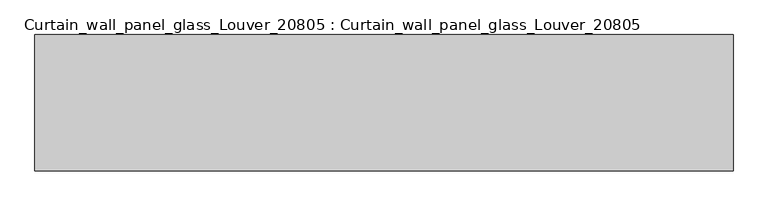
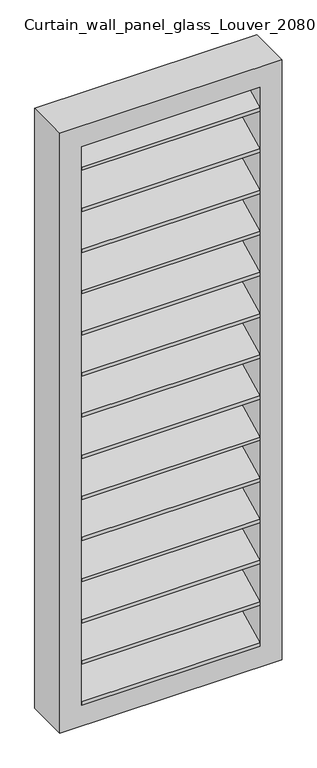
"""IFC4 building model written with IfcOpenShell, lengths in millimetres: plate geometry, Curtain_wall_panel_glass_Louver_20805 : Curtain_wall_panel_glass_Louver_20805."""

from ifc_helpers import new_model, si_unit, frame, origin, place, context, project, spatial, polyline, outline, extrude, source, transform, mapped, element, save


def curtain_wall_panel_glass_louver_20805_curtain_wall_panel_42fa0640(model_context):
    return source(origin(), model_context, "Body", "SweptSolid", [
        extrude(outline(polyline([(200.0, 199.3849981), (0.0, 100.0), (0.0, 116.7499328), (200.0, 216.1349309), (200.0, 199.3849981)])), frame((-412.5, 0.0, 0.0), z_axis=(1.0, 0.0, 0.0), x_axis=(0.0, 1.0, 0.0)), (0.0, 0.0, 1.0), 825.0),
        extrude(outline(polyline([(200.0, 2808.2500672), (0.0, 2708.8650691), (0.0, 2725.6150019), (200.0, 2825.0), (200.0, 2808.2500672)])), frame((-412.5, 0.0, 0.0), z_axis=(1.0, 0.0, 0.0), x_axis=(0.0, 1.0, 0.0)), (0.0, 0.0, 1.0), 825.0),
        extrude(outline(polyline([(200.0, 400.0669265), (0.0, 300.6819284), (0.0, 317.4318612), (200.0, 416.8168593), (200.0, 400.0669265)])), frame((-412.5, 0.0, 0.0), z_axis=(1.0, 0.0, 0.0), x_axis=(0.0, 1.0, 0.0)), (0.0, 0.0, 1.0), 825.0),
        extrude(outline(polyline([(200.0, 600.7488549), (0.0, 501.3638568), (0.0, 518.1137896), (200.0, 617.4987877), (200.0, 600.7488549)])), frame((-412.5, 0.0, 0.0), z_axis=(1.0, 0.0, 0.0), x_axis=(0.0, 1.0, 0.0)), (0.0, 0.0, 1.0), 825.0),
        extrude(outline(polyline([(200.0, 801.4307833), (0.0, 702.0457852), (0.0, 718.795718), (200.0, 818.1807161), (200.0, 801.4307833)])), frame((-412.5, 0.0, 0.0), z_axis=(1.0, 0.0, 0.0), x_axis=(0.0, 1.0, 0.0)), (0.0, 0.0, 1.0), 825.0),
        extrude(outline(polyline([(200.0, 1002.1127117), (0.0, 902.7277136), (0.0, 919.4776464), (200.0, 1018.8626445), (200.0, 1002.1127117)])), frame((-412.5, 0.0, 0.0), z_axis=(1.0, 0.0, 0.0), x_axis=(0.0, 1.0, 0.0)), (0.0, 0.0, 1.0), 825.0),
        extrude(outline(polyline([(200.0, 1202.79464), (0.0, 1103.4096419), (0.0, 1120.1595748), (200.0, 1219.5445729), (200.0, 1202.79464)])), frame((-412.5, 0.0, 0.0), z_axis=(1.0, 0.0, 0.0), x_axis=(0.0, 1.0, 0.0)), (0.0, 0.0, 1.0), 825.0),
        extrude(outline(polyline([(200.0, 1403.4765684), (0.0, 1304.0915703), (0.0, 1320.8415032), (200.0, 1420.2265013), (200.0, 1403.4765684)])), frame((-412.5, 0.0, 0.0), z_axis=(1.0, 0.0, 0.0), x_axis=(0.0, 1.0, 0.0)), (0.0, 0.0, 1.0), 825.0),
        extrude(outline(polyline([(200.0, 1604.1584968), (0.0, 1504.7734987), (0.0, 1521.5234316), (200.0, 1620.9084297), (200.0, 1604.1584968)])), frame((-412.5, 0.0, 0.0), z_axis=(1.0, 0.0, 0.0), x_axis=(0.0, 1.0, 0.0)), (0.0, 0.0, 1.0), 825.0),
        extrude(outline(polyline([(200.0, 1804.8404252), (0.0, 1705.4554271), (0.0, 1722.20536), (200.0, 1821.5903581), (200.0, 1804.8404252)])), frame((-412.5, 0.0, 0.0), z_axis=(1.0, 0.0, 0.0), x_axis=(0.0, 1.0, 0.0)), (0.0, 0.0, 1.0), 825.0),
        extrude(outline(polyline([(200.0, 2005.5223536), (0.0, 1906.1373555), (0.0, 1922.8872883), (200.0, 2022.2722864), (200.0, 2005.5223536)])), frame((-412.5, 0.0, 0.0), z_axis=(1.0, 0.0, 0.0), x_axis=(0.0, 1.0, 0.0)), (0.0, 0.0, 1.0), 825.0),
        extrude(outline(polyline([(200.0, 2206.204282), (0.0, 2106.8192839), (0.0, 2123.5692167), (200.0, 2222.9542148), (200.0, 2206.204282)])), frame((-412.5, 0.0, 0.0), z_axis=(1.0, 0.0, 0.0), x_axis=(0.0, 1.0, 0.0)), (0.0, 0.0, 1.0), 825.0),
        extrude(outline(polyline([(200.0, 2406.8862104), (0.0, 2307.5012123), (0.0, 2324.2511451), (200.0, 2423.6361432), (200.0, 2406.8862104)])), frame((-412.5, 0.0, 0.0), z_axis=(1.0, 0.0, 0.0), x_axis=(0.0, 1.0, 0.0)), (0.0, 0.0, 1.0), 825.0),
        extrude(outline(polyline([(200.0, 2607.5681388), (0.0, 2508.1831407), (0.0, 2524.9330735), (200.0, 2624.3180716), (200.0, 2607.5681388)])), frame((-412.5, 0.0, 0.0), z_axis=(1.0, 0.0, 0.0), x_axis=(0.0, 1.0, 0.0)), (0.0, 0.0, 1.0), 825.0),
        extrude(outline(polyline([(2925.0, -512.5), (0.0, -512.5), (0.0, 512.5), (2925.0, 512.5), (2925.0, -512.5)]), holes=[polyline([(2825.0, -412.5), (2825.0, 412.5), (100.0, 412.5), (100.0, -412.5), (2825.0, -412.5)])]), frame((0.0, 0.0, 0.0), z_axis=(0.0, 1.0, 0.0), x_axis=(0.0, 0.0, 1.0)), (0.0, 0.0, 1.0), 200.0),
    ])


if __name__ == "__main__":
    model = new_model("IFC4")
    model_context = context("Model", 3, world=origin())
    ifc_project = project(units=[si_unit("LENGTHUNIT", "METRE", prefix="MILLI")], contexts=[model_context])
    site = spatial("IfcSite", under=ifc_project)
    building = spatial("IfcBuilding", under=site)
    placement = place(None, origin())
    curtain_wall_panel_glass_louver_20805_curtain_wall_panel_shape = curtain_wall_panel_glass_louver_20805_curtain_wall_panel_42fa0640(model_context)
    element("IfcPlate", 1, ObjectType="Curtain_wall_panel_glass_Louver_20805 : Curtain_wall_panel_glass_Louver_20805", at=placement, inside=building, context=model_context, shape_type="MappedRepresentation", body=[
        mapped(curtain_wall_panel_glass_louver_20805_curtain_wall_panel_shape, transform((0.0, 0.0, 0.0), x_axis=(1.0, 0.0, 0.0), y_axis=(0.0, 1.0, 0.0), z_axis=(0.0, 0.0, 1.0))),
    ])
    save(model, "model.ifc")
